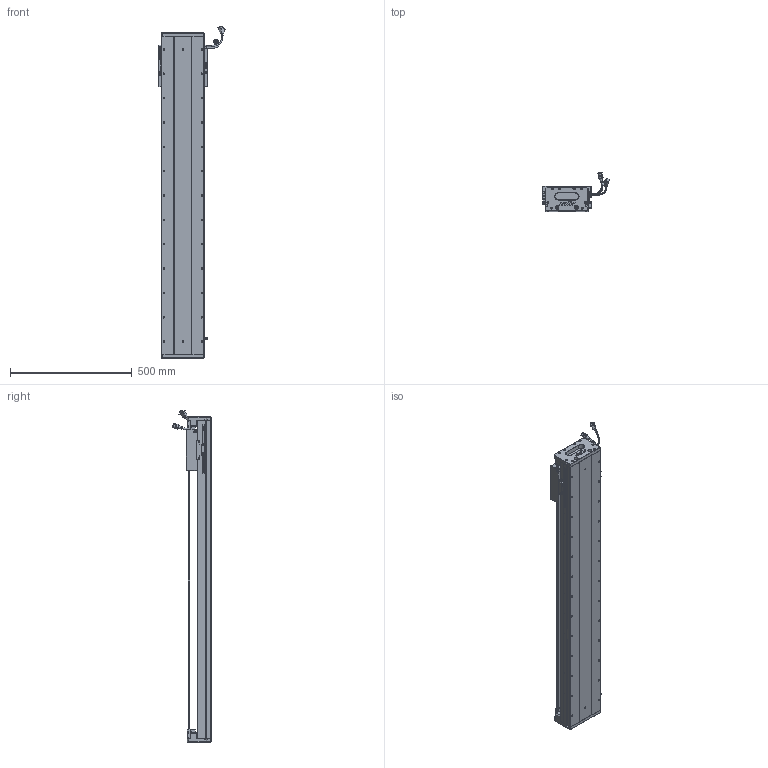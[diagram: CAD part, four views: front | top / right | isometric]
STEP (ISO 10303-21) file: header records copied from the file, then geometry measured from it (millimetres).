
FILE_DESCRIPTION (( 'STEP AP203' ), '1' );
FILE_NAME ('Z2-RY170D-1-L500-B-K.SLDASM_1050.step', '2021-05-17T09:07:29', ( '盈信电脑' ), ( '东莞市道滘镇水果街19号' ), 'SwSTEP 2.0', 'SolidWorks 2016', '' );
FILE_SCHEMA (( 'CONFIG_CONTROL_DESIGN' ));
Length unit declared in the file: millimetre
Products named in the file (36): SCREW-M1.6; COVER; PSLH080_PSLF2; HOLDER0; 140蚥薯蝶輸; RY170直线电机感应器672光电感应片; LABEL-Part-1; Z2-RY170-L500耀郪菁釱_1050; SEAL-Part-1; SCREW-M1.6-1; 榋妏寠巭燃_暯_M2_2; HARNESS-Part-1; Z2-RY170-L500詩湍145mm遵_1050; Z-170詩湍傷裔啣; PBU_SHEET; SCREW-M1.7; Z2-RY170臏賑輸(21遴); 080黍杅芛假蚾釱21遴; SCALE-Part-1; HARNESS; Z-RY170詩湍狟揤裔; SEAL; SCREW-M1.6-3; SHIELDPLATE; SCALE; Z2-RY170D-1-L500-B-K.SLDASM_1050; 170-Z-臏賑輸盄裔(21遴); HARNESS-Part-2; SCREW-M1.6-2; 140雄赽晤鎢ん堤盄; LABEL; Z-RY170詩湍奻揤裔; SCREW-M1.7-1; SCALE-Part-2; COVER-Part-1; 覜茼ん672
Assembly tree (41 placements, depth 4):
  Z2-RY170D-1-L500-B-K.SLDASM_1050
    Z2-RY170-L500耀郪菁釱_1050
    RY170直线电机感应器672光电感应片
    Z2-RY170臏賑輸(21遴)
    覜茼ん672  x3
    PSLH080_PSLF2
      SCALE
        SCALE-Part-1
        SCALE-Part-2
      HARNESS
        HARNESS-Part-1
        HARNESS-Part-2
      LABEL
        LABEL-Part-1
      COVER
        COVER-Part-1
      SEAL
        SEAL-Part-1
      榋妏寠巭燃_暯_M2_2
      SHIELDPLATE
      SCREW-M1.7
      SCREW-M1.7-1
      PBU_SHEET
      SCREW-M1.6
      SCREW-M1.6-1
      SCREW-M1.6-2
      SCREW-M1.6-3
      HOLDER0
    080黍杅芛假蚾釱21遴
    Z2-RY170-L500詩湍145mm遵_1050
    Z-170詩湍傷裔啣  x2
    Z-RY170詩湍奻揤裔  x2
    Z-RY170詩湍狟揤裔  x2
    140蚥薯蝶輸  x2
    170-Z-臏賑輸盄裔(21遴)
    140雄赽晤鎢ん堤盄
Bounding box: 275.34 x 158.11 x 1363.72 mm (x, y, z)
Volume: 7318827.6 mm3; surface area: 1792043.7 mm2
Topology: 36 solids, 36 shells, 3214 faces, 8665 edges, 5441 vertices
Faces by surface type: cylinder 1492, plane 1188, cone 412, torus 69, bspline 53
Entity records: 95681 total; most frequent: CARTESIAN_POINT 24878, ORIENTED_EDGE 14110, DIRECTION 13735, EDGE_CURVE 7055, AXIS2_PLACEMENT_3D 5032, VERTEX_POINT 4559, LINE 3671, VECTOR 3671
